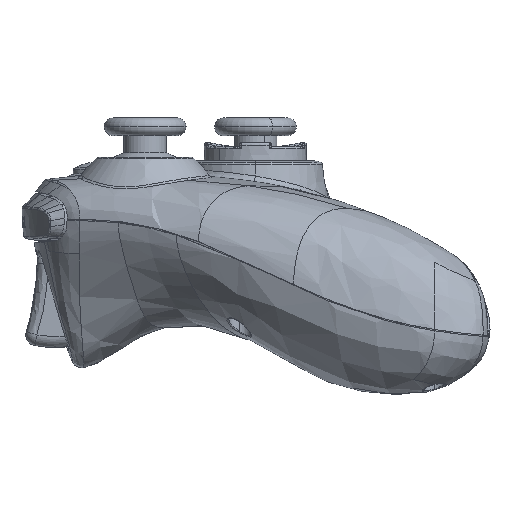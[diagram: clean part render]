
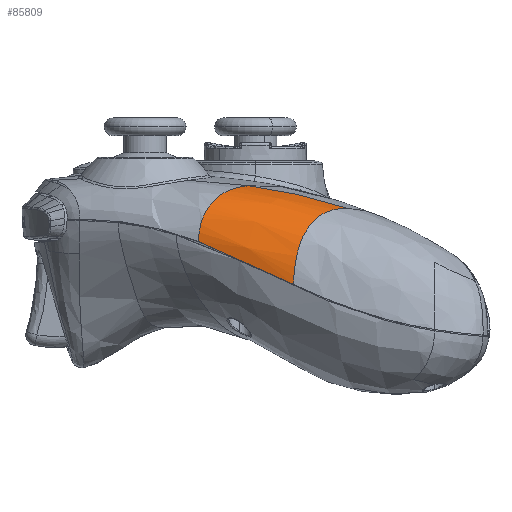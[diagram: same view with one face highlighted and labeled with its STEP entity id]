
A CAD part, left-side view. The second image highlights one B-rep face of the part: STEP entity #85809.
In plain terms, the highlighted free-form (B-spline) face has degree [3, 3] with [5, 10] control points.
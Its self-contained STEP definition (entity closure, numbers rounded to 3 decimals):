
#53764=CARTESIAN_POINT('',(-56.387,-3.159,
10.957));
#54094=CARTESIAN_POINT('',(-68.427,8.069,
-1.647));
#54095=CARTESIAN_POINT('',(-68.406,8.045,
-0.834));
#54096=CARTESIAN_POINT('',(-68.262,7.912,
0.702));
#54097=CARTESIAN_POINT('',(-67.768,7.451,
2.747));
#54098=CARTESIAN_POINT('',(-67.015,6.755,
4.563));
#54099=CARTESIAN_POINT('',(-66.01,5.816,
6.181));
#54100=CARTESIAN_POINT('',(-64.749,4.638,
7.627));
#54101=CARTESIAN_POINT('',(-63.146,3.147,
8.909));
#54102=CARTESIAN_POINT('',(-61.307,1.436,
9.877));
#54103=CARTESIAN_POINT('',(-59.185,-0.539,
10.588));
#54104=CARTESIAN_POINT('',(-57.386,-2.24,
10.886));
#54105=CARTESIAN_POINT('',(-56.387,-3.159,
10.957));
#58572=CARTESIAN_POINT('',(-68.427,8.069,
-1.647));
#58584=CARTESIAN_POINT('',(-74.042,-13.423,
-11.32));
#58585=CARTESIAN_POINT('',(-73.307,-9.814,
-9.658));
#58586=CARTESIAN_POINT('',(-71.643,-2.698,
-6.203));
#58587=CARTESIAN_POINT('',(-69.573,4.448,
-3.026));
#58588=CARTESIAN_POINT('',(-68.427,8.069,
-1.647));
#58624=CARTESIAN_POINT('',(-60.249,-25.475,
5.914));
#58625=CARTESIAN_POINT('',(-61.023,-24.8,
5.925));
#58626=CARTESIAN_POINT('',(-62.567,-23.454,
5.845));
#58627=CARTESIAN_POINT('',(-64.844,-21.47,
5.357));
#58628=CARTESIAN_POINT('',(-66.981,-19.601,
4.417));
#58629=CARTESIAN_POINT('',(-68.633,-18.15,
3.265));
#58630=CARTESIAN_POINT('',(-70.194,-16.785,
1.701));
#58631=CARTESIAN_POINT('',(-71.526,-15.631,
-0.255));
#58632=CARTESIAN_POINT('',(-72.594,-14.694,
-2.567));
#58633=CARTESIAN_POINT('',(-73.369,-14.008,
-5.173));
#58634=CARTESIAN_POINT('',(-73.869,-13.575,
-8.095));
#58635=CARTESIAN_POINT('',(-74.015,-13.448,
-10.218));
#58636=CARTESIAN_POINT('',(-74.042,-13.423,
-11.32));
#58680=CARTESIAN_POINT('',(-56.387,-3.159,
10.957));
#58681=CARTESIAN_POINT('',(-56.769,-6.809,
10.507));
#58682=CARTESIAN_POINT('',(-58.323,-14.237,
9.169));
#58683=CARTESIAN_POINT('',(-59.868,-21.708,
7.105));
#58684=CARTESIAN_POINT('',(-60.249,-25.475,
5.914));
#74094=VERTEX_POINT('',#53764);
#74962=VERTEX_POINT('',#58572);
#74963=VERTEX_POINT('',#58584);
#74993=VERTEX_POINT('',#58624);
#85751=CARTESIAN_POINT('',(-68.36,8.298,
-1.79));
#85752=CARTESIAN_POINT('',(-68.345,8.282,
-0.757));
#85753=CARTESIAN_POINT('',(-68.158,8.107,
1.189));
#85754=CARTESIAN_POINT('',(-67.374,7.372,
3.8));
#85755=CARTESIAN_POINT('',(-66.177,6.25,
5.965));
#85756=CARTESIAN_POINT('',(-64.659,4.828,
7.724));
#85757=CARTESIAN_POINT('',(-62.888,3.169,
9.084));
#85758=CARTESIAN_POINT('',(-60.201,0.651,
10.399));
#85759=CARTESIAN_POINT('',(-57.89,-1.51,
10.89));
#85760=CARTESIAN_POINT('',(-56.197,-3.09,
10.996));
#85761=CARTESIAN_POINT('',(-69.535,4.598,
-3.198));
#85762=CARTESIAN_POINT('',(-69.517,4.592,
-2.125));
#85763=CARTESIAN_POINT('',(-69.326,4.431,
-0.064));
#85764=CARTESIAN_POINT('',(-68.495,3.71,
2.785));
#85765=CARTESIAN_POINT('',(-67.192,2.582,
5.195));
#85766=CARTESIAN_POINT('',(-65.515,1.122,
7.169));
#85767=CARTESIAN_POINT('',(-63.548,-0.588,
8.663));
#85768=CARTESIAN_POINT('',(-60.614,-3.151,
10.046));
#85769=CARTESIAN_POINT('',(-58.221,-5.289,
10.486));
#85770=CARTESIAN_POINT('',(-56.574,-6.806,
10.541));
#85771=CARTESIAN_POINT('',(-71.653,-2.694,
-6.457));
#85772=CARTESIAN_POINT('',(-71.629,-2.7,
-5.299));
#85773=CARTESIAN_POINT('',(-71.451,-2.843,
-3.039));
#85774=CARTESIAN_POINT('',(-70.667,-3.523,
0.207));
#85775=CARTESIAN_POINT('',(-69.35,-4.655,
3.061));
#85776=CARTESIAN_POINT('',(-67.538,-6.202,
5.417));
#85777=CARTESIAN_POINT('',(-65.375,-8.048,
7.151));
#85778=CARTESIAN_POINT('',(-62.216,-10.787,
8.724));
#85779=CARTESIAN_POINT('',(-59.75,-12.95,
9.144));
#85780=CARTESIAN_POINT('',(-58.166,-14.377,
9.181));
#85781=CARTESIAN_POINT('',(-73.346,-9.953,
-10.003));
#85782=CARTESIAN_POINT('',(-73.322,-9.969,
-8.763));
#85783=CARTESIAN_POINT('',(-73.161,-10.107,
-6.325));
#85784=CARTESIAN_POINT('',(-72.447,-10.75,
-2.743));
#85785=CARTESIAN_POINT('',(-71.177,-11.884,
0.494));
#85786=CARTESIAN_POINT('',(-69.313,-13.525,
3.172));
#85787=CARTESIAN_POINT('',(-67.043,-15.525,
5.091));
#85788=CARTESIAN_POINT('',(-63.751,-18.457,
6.727));
#85789=CARTESIAN_POINT('',(-61.272,-20.65,
7.048));
#85790=CARTESIAN_POINT('',(-59.748,-21.993,
7.065));
#85791=CARTESIAN_POINT('',(-74.093,-13.636,
-11.704));
#85792=CARTESIAN_POINT('',(-74.07,-13.656,
-10.426));
#85793=CARTESIAN_POINT('',(-73.908,-13.797,
-7.895));
#85794=CARTESIAN_POINT('',(-73.174,-14.437,
-4.137));
#85795=CARTESIAN_POINT('',(-71.859,-15.586,
-0.718));
#85796=CARTESIAN_POINT('',(-69.921,-17.278,
2.112));
#85797=CARTESIAN_POINT('',(-67.547,-19.352,
4.108));
#85798=CARTESIAN_POINT('',(-64.102,-22.359,
5.686));
#85799=CARTESIAN_POINT('',(-61.603,-24.542,
5.875));
#85800=CARTESIAN_POINT('',(-60.125,-25.833,
5.839));
#85801=B_SPLINE_SURFACE_WITH_KNOTS('',3,3,((#85751,#85752,#85753,#85754,#85755,
#85756,#85757,#85758,#85759,#85760),(#85761,#85762,#85763,#85764,#85765,#85766,
#85767,#85768,#85769,#85770),(#85771,#85772,#85773,#85774,#85775,#85776,#85777,
#85778,#85779,#85780),(#85781,#85782,#85783,#85784,#85785,#85786,#85787,#85788,
#85789,#85790),(#85791,#85792,#85793,#85794,#85795,#85796,#85797,#85798,#85799,
#85800)),.UNSPECIFIED.,.F.,.F.,.F.,(4,1,4),(4,1,1,1,1,1,1,4),
(-0.008,12.38,24.764),(0.002,
3.872,7.457,11.041,14.625,
18.21,21.794,29.207),.UNSPECIFIED.);
#85802=ORIENTED_EDGE('',*,*,#85471,.T.);
#85803=ORIENTED_EDGE('',*,*,#78003,.T.);
#85805=ORIENTED_EDGE('',*,*,#85804,.T.);
#85806=ORIENTED_EDGE('',*,*,#85731,.T.);
#85807=EDGE_LOOP('',(#85802,#85803,#85805,#85806));
#85808=FACE_OUTER_BOUND('',#85807,.F.);
#54106=B_SPLINE_CURVE_WITH_KNOTS('',3,(#54094,#54095,#54096,#54097,#54098,
#54099,#54100,#54101,#54102,#54103,#54104,#54105),.UNSPECIFIED.,.F.,.F.,(4,1,1,
1,1,1,1,1,1,4),(0.,0.111,0.222,0.333,
0.444,0.556,0.667,0.778,
0.889,1.),.UNSPECIFIED.);
#58589=B_SPLINE_CURVE_WITH_KNOTS('',3,(#58584,#58585,#58586,#58587,#58588),
.UNSPECIFIED.,.F.,.F.,(4,1,4),(0.,0.5,1.),.UNSPECIFIED.);
#58637=B_SPLINE_CURVE_WITH_KNOTS('',3,(#58624,#58625,#58626,#58627,#58628,
#58629,#58630,#58631,#58632,#58633,#58634,#58635,#58636),.UNSPECIFIED.,.F.,.F.,(
4,1,1,1,1,1,1,1,1,1,4),(0.,0.1,0.2,0.3,0.4,0.5,0.6,0.7,0.8,
0.9,1.),.UNSPECIFIED.);
#58685=B_SPLINE_CURVE_WITH_KNOTS('',3,(#58680,#58681,#58682,#58683,#58684),
.UNSPECIFIED.,.F.,.F.,(4,1,4),(0.,0.5,1.),.UNSPECIFIED.);
#78003=EDGE_CURVE('',#74962,#74094,#54106,.T.);
#85471=EDGE_CURVE('',#74963,#74962,#58589,.T.);
#85731=EDGE_CURVE('',#74993,#74963,#58637,.T.);
#85804=EDGE_CURVE('',#74094,#74993,#58685,.T.);
#85809=ADVANCED_FACE('',(#85808),#85801,.T.);
